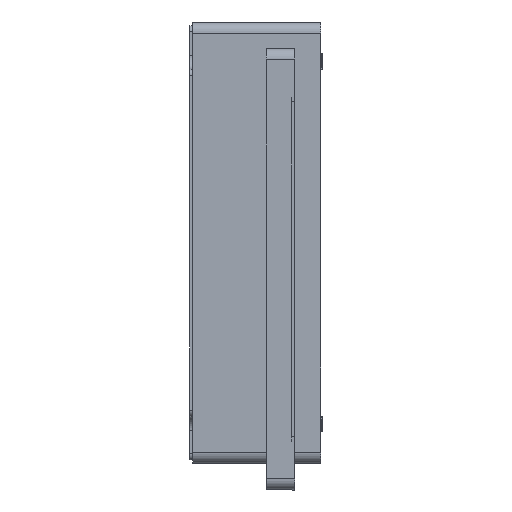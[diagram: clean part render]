
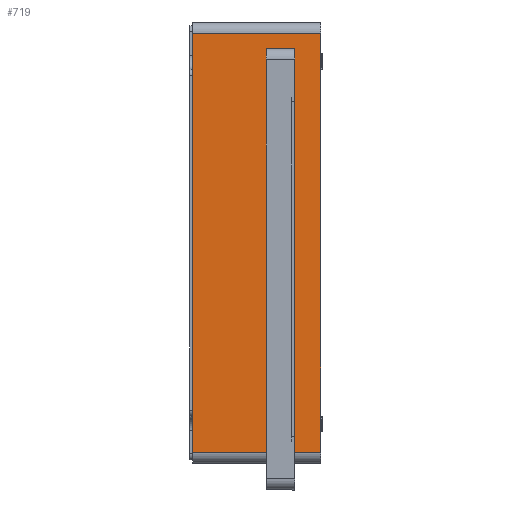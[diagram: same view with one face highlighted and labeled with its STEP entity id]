
A CAD part, left-side view. The second image highlights one B-rep face of the part: STEP entity #719.
In plain terms, the highlighted planar face has unit normal (-1, 0, 0).
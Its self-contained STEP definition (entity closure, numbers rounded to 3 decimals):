
#23 = VERTEX_POINT ( 'NONE', #5650 ) ;
#719 = ADVANCED_FACE ( 'NONE', ( #4907 ), #5583, .F. ) ;
#1723 = VECTOR ( 'NONE', #17543, 1000. ) ;
#1862 = CARTESIAN_POINT ( 'NONE',  ( -201., 0., -147. ) ) ;
#3192 = CARTESIAN_POINT ( 'NONE',  ( -201., 90., -147. ) ) ;
#4200 = EDGE_LOOP ( 'NONE', ( #25791, #20792, #7294, #4430 ) ) ;
#4430 = ORIENTED_EDGE ( 'NONE', *, *, #18077, .T. ) ;
#4907 = FACE_OUTER_BOUND ( 'NONE', #4200, .T. ) ;
#5583 = PLANE ( 'NONE',  #10807 ) ;
#5650 = CARTESIAN_POINT ( 'NONE',  ( -201., 90., -147. ) ) ;
#6502 = LINE ( 'NONE', #23309, #22815 ) ;
#6835 = VERTEX_POINT ( 'NONE', #12493 ) ;
#7294 = ORIENTED_EDGE ( 'NONE', *, *, #8673, .F. ) ;
#8673 = EDGE_CURVE ( 'NONE', #23, #22454, #25659, .T. ) ;
#9831 = DIRECTION ( 'NONE',  ( 1., 0., 0. ) ) ;
#10807 = AXIS2_PLACEMENT_3D ( 'NONE', #17826, #9831, #22237 ) ;
#11242 = CARTESIAN_POINT ( 'NONE',  ( -201., 90., 147. ) ) ;
#12493 = CARTESIAN_POINT ( 'NONE',  ( -201., 0., 147. ) ) ;
#13148 = CARTESIAN_POINT ( 'NONE',  ( -201., 90., -155. ) ) ;
#13942 = CARTESIAN_POINT ( 'NONE',  ( -201., 0., -155. ) ) ;
#14016 = DIRECTION ( 'NONE',  ( 0., 1., 0. ) ) ;
#15324 = DIRECTION ( 'NONE',  ( 0., 0., 1. ) ) ;
#16678 = VERTEX_POINT ( 'NONE', #1862 ) ;
#17543 = DIRECTION ( 'NONE',  ( 0., 0., 1. ) ) ;
#17776 = DIRECTION ( 'NONE',  ( 0., -1., 0. ) ) ;
#17826 = CARTESIAN_POINT ( 'NONE',  ( -201., 90., -155. ) ) ;
#18077 = EDGE_CURVE ( 'NONE', #23, #16678, #23718, .T. ) ;
#20083 = VECTOR ( 'NONE', #15324, 1000. ) ;
#20792 = ORIENTED_EDGE ( 'NONE', *, *, #25203, .T. ) ;
#22237 = DIRECTION ( 'NONE',  ( 0., 0., -1. ) ) ;
#22454 = VERTEX_POINT ( 'NONE', #11242 ) ;
#22815 = VECTOR ( 'NONE', #14016, 1000. ) ;
#23309 = CARTESIAN_POINT ( 'NONE',  ( -201., 90., 147. ) ) ;
#23718 = LINE ( 'NONE', #3192, #24092 ) ;
#24092 = VECTOR ( 'NONE', #17776, 1000. ) ;
#25203 = EDGE_CURVE ( 'NONE', #6835, #22454, #6502, .T. ) ;
#25659 = LINE ( 'NONE', #13148, #20083 ) ;
#25791 = ORIENTED_EDGE ( 'NONE', *, *, #25934, .T. ) ;
#25934 = EDGE_CURVE ( 'NONE', #16678, #6835, #26076, .T. ) ;
#26076 = LINE ( 'NONE', #13942, #1723 ) ;
